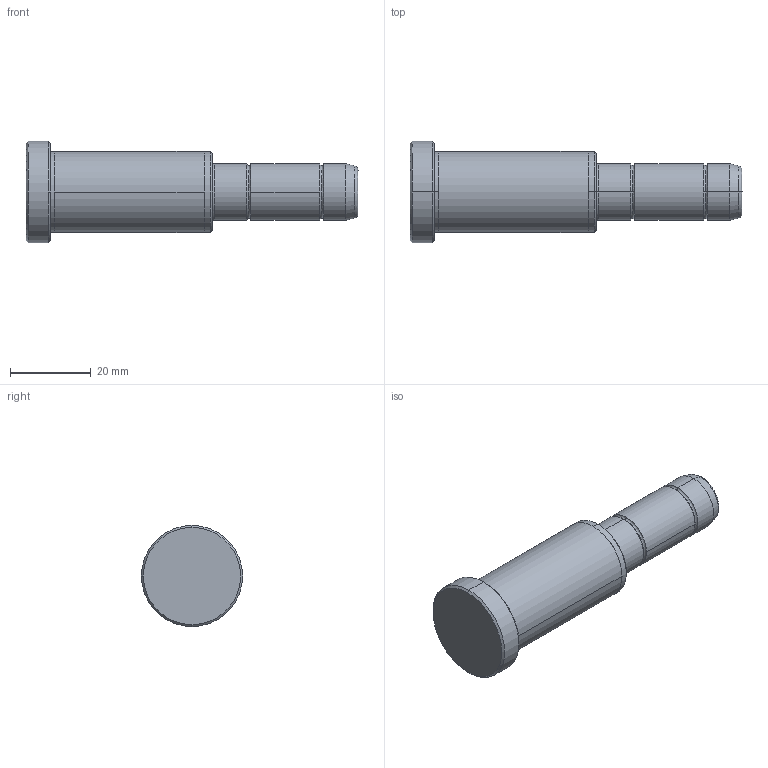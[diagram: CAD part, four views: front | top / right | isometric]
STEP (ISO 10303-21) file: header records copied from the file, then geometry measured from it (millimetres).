
FILE_DESCRIPTION (( 'STEP AP214' ), '1' );
FILE_NAME ('D02_14x46x36.step', '2011-12-25T21:01:14', ( 'Dell' ), ( '' ), 'SwSTEP 2.0', 'SolidWorks 2010', '' );
FILE_SCHEMA (( 'AUTOMOTIVE_DESIGN' ));
Length unit declared in the file: millimetre
Products named in the file (1): D02_14x46x36
Bounding box: 82 x 25 x 25 mm (x, y, z)
Volume: 20963.3 mm3; surface area: 5476.8 mm2
Topology: 1 solids, 1 shells, 42 faces, 88 edges, 52 vertices
Faces by surface type: cylinder 14, bspline 12, cone 10, plane 6
Entity records: 1286 total; most frequent: CARTESIAN_POINT 415, DIRECTION 180, ORIENTED_EDGE 176, EDGE_CURVE 88, AXIS2_PLACEMENT_3D 79, VERTEX_POINT 52, CIRCLE 48, EDGE_LOOP 46
